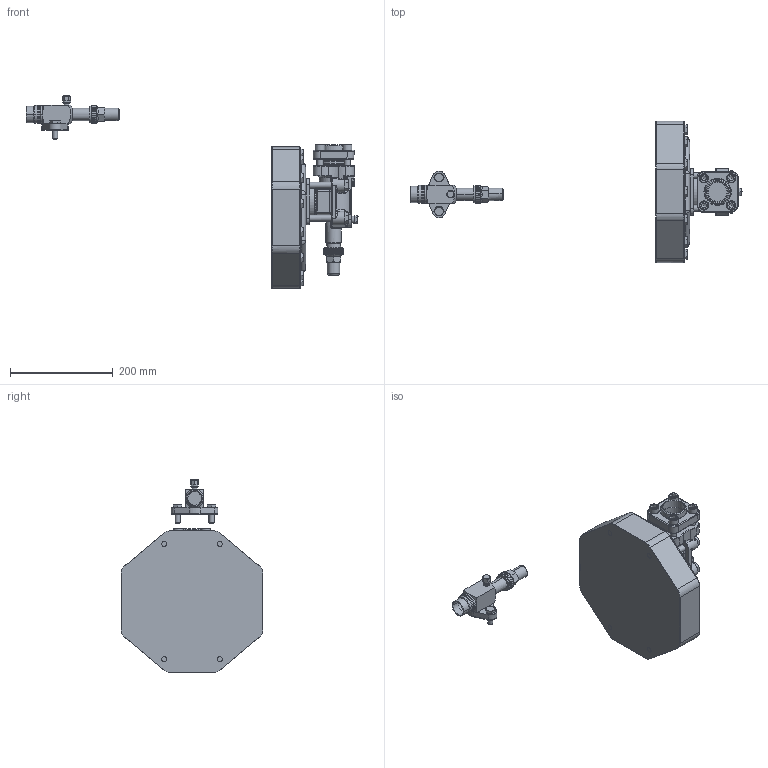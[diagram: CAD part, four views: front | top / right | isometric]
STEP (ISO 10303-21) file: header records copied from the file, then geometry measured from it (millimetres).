
FILE_DESCRIPTION(/* description */ (''),/* implementation_level */ '2;1');
FILE_NAME(/* name */ '4PE-S15-4NE-S20.stp',/* time_stamp */ '2023-10-24T07:52:06+02:00',/* author */ (''),/* organization */ (''),/* preprocessor_version */ 'ST-DEVELOPER v19.3',/* originating_system */ 'SIEMENS PLM Software NX2212.3001',/* authorisation */ '');
FILE_SCHEMA (('AUTOMOTIVE_DESIGN { 1 0 10303 214 3 1 1 1 }'));
Products named in the file (4): SHUT-OFF-VALVE-COMPL-D28L; SHUT-OFF-VALVE-D42L-BRASS-BUSH; HOUSING-COVER-4PC-15-2-4NC-20; 4PE-S15-4NE-S20
Assembly tree (3 placements, depth 2):
  4PE-S15-4NE-S20
    HOUSING-COVER-4PC-15-2-4NC-20
    SHUT-OFF-VALVE-D42L-BRASS-BUSH
    SHUT-OFF-VALVE-COMPL-D28L
Bounding box: 645.85 x 275 x 374.64 mm (x, y, z)
Volume: 4914859.4 mm3; surface area: 345108.2 mm2
Topology: 3 solids, 17 shells, 1394 faces, 3373 edges, 2077 vertices
Faces by surface type: plane 485, cylinder 394, cone 222, bspline 141, torus 138, sphere 14
Full cylindrical faces by diameter (mm): 10 x24, 10.985 x4, 11 x16, 12 x8, 13 x4, 13.716 x1, 18 x4, 24 x1, 27 x2, 30 x1, 34.5 x1, 36 x1, 37 x1, 39 x1, 41.4 x1, 42.2 x1, 49 x1, 50 x1, 52 x1, 52.5 x1, 53 x1, 54 x2, 57 x3, 69 x1, 70 x2, 71 x1
Entity records: 62337 total; most frequent: CARTESIAN_POINT 27044, ORIENTED_EDGE 6190, DIRECTION 5702, EDGE_CURVE 3095, AXIS2_PLACEMENT_3D 2322, VERTEX_POINT 1994, EDGE_LOOP 1685, ADVANCED_FACE 1394
